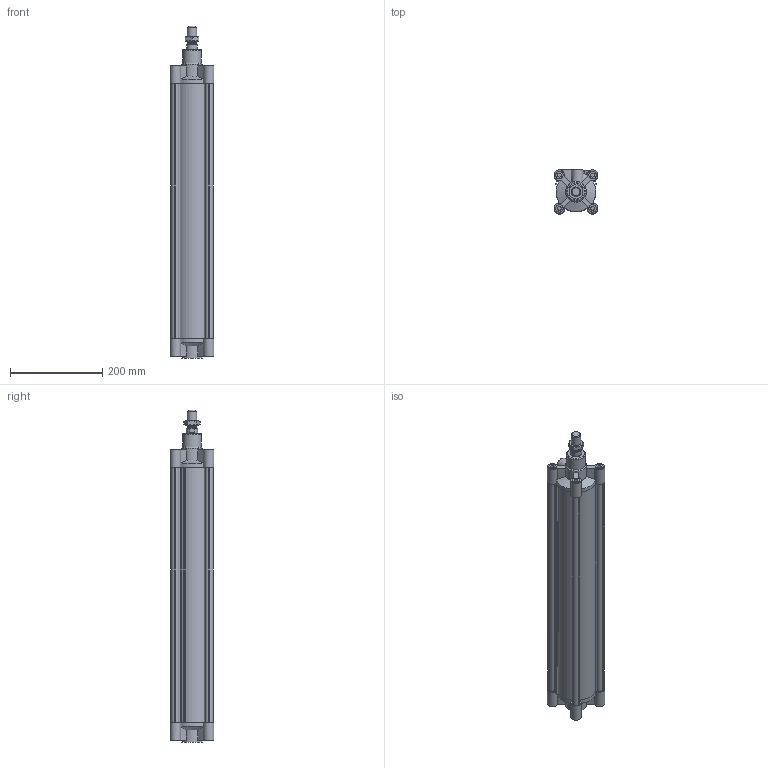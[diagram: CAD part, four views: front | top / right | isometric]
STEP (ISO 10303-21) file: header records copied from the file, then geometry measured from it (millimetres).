
FILE_DESCRIPTION((''),'2;1');
FILE_NAME('I:\Area Tecnica\Disegni\VARIE-3D\Componenti\ECOLIGHT\139#.##_0000_01\stp\139#_80_0500_01.iam.stp','2012-01-28T08:03:25',(''),(''),'Autodesk Inventor 2012','Autodesk Inventor 2012','');
FILE_SCHEMA(('AUTOMOTIVE_DESIGN { 1 0 10303 214 1 1 1 1 }'));
Length unit declared in the file: millimetre
Products named in the file (6): 139#_80_0500_01; CPL080_004-500; CPL080-001-01; CPL080-002-01; CPL_80_0500; 1320_80_18F
Assembly tree (5 placements, depth 2):
  139#_80_0500_01
    CPL080_004-500
    CPL080-001-01
    CPL080-002-01
    CPL_80_0500
    1320_80_18F
Bounding box: 95 x 95 x 718.5 mm (x, y, z)
Volume: 1776605.5 mm3; surface area: 645199.6 mm2
Topology: 5 solids, 5 shells, 264 faces, 648 edges, 426 vertices
Faces by surface type: plane 154, cylinder 83, cone 26, torus 1
Full cylindrical faces by diameter (mm): 8.5 x8, 12 x2, 15.2 x2, 16 x8, 16.5 x8, 18 x1, 18.5 x1, 20 x1, 24.5 x1, 25 x2, 41 x1, 45 x2, 80 x4
Entity records: 7874 total; most frequent: CARTESIAN_POINT 1483, DIRECTION 1288, ORIENTED_EDGE 1186, EDGE_CURVE 593, AXIS2_PLACEMENT_3D 476, VERTEX_POINT 419, EDGE_LOOP 358, VECTOR 336
